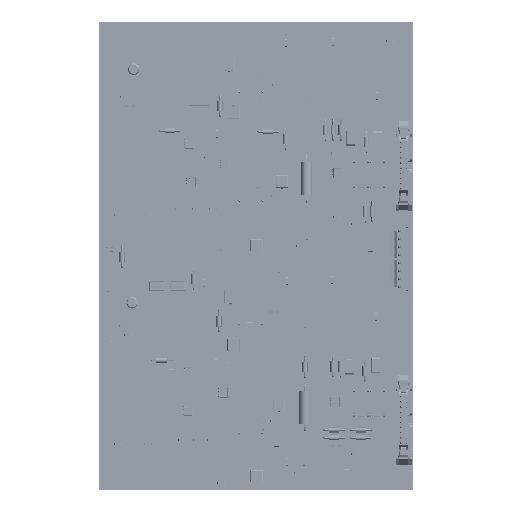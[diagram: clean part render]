
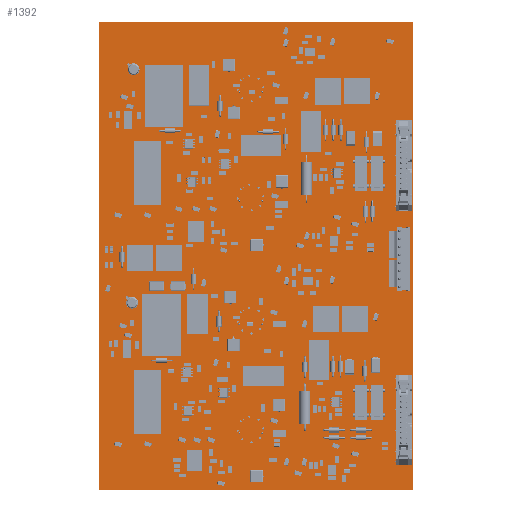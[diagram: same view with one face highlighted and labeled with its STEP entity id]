
A CAD part, top view. The second image highlights one B-rep face of the part: STEP entity #1392.
In plain terms, the highlighted planar face has unit normal (0, 0, 1).
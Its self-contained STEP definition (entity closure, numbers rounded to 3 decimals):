
#1199 = VERTEX_POINT('',#1200);
#1200 = CARTESIAN_POINT('',(0.,0.,0.));
#1206 = EDGE_CURVE('',#1199,#1207,#1209,.T.);
#1207 = VERTEX_POINT('',#1208);
#1208 = CARTESIAN_POINT('',(0.,231.14,0.));
#1209 = LINE('',#1210,#1211);
#1210 = CARTESIAN_POINT('',(0.,0.,0.));
#1211 = VECTOR('',#1212,1.);
#1212 = DIRECTION('',(0.,1.,0.));
#1237 = EDGE_CURVE('',#1207,#1238,#1240,.T.);
#1238 = VERTEX_POINT('',#1239);
#1239 = CARTESIAN_POINT('',(35.306,231.14,0.));
#1240 = LINE('',#1241,#1242);
#1241 = CARTESIAN_POINT('',(0.,231.14,0.));
#1242 = VECTOR('',#1243,1.);
#1243 = DIRECTION('',(1.,0.,0.));
#1268 = EDGE_CURVE('',#1238,#1269,#1271,.T.);
#1269 = VERTEX_POINT('',#1270);
#1270 = CARTESIAN_POINT('',(109.22,231.14,0.));
#1271 = LINE('',#1272,#1273);
#1272 = CARTESIAN_POINT('',(35.306,231.14,0.));
#1273 = VECTOR('',#1274,1.);
#1274 = DIRECTION('',(1.,0.,0.));
#1299 = EDGE_CURVE('',#1269,#1300,#1302,.T.);
#1300 = VERTEX_POINT('',#1301);
#1301 = CARTESIAN_POINT('',(155.194,231.14,0.));
#1302 = LINE('',#1303,#1304);
#1303 = CARTESIAN_POINT('',(109.22,231.14,0.));
#1304 = VECTOR('',#1305,1.);
#1305 = DIRECTION('',(1.,0.,0.));
#1330 = EDGE_CURVE('',#1300,#1331,#1333,.T.);
#1331 = VERTEX_POINT('',#1332);
#1332 = CARTESIAN_POINT('',(155.194,0.,0.));
#1333 = LINE('',#1334,#1335);
#1334 = CARTESIAN_POINT('',(155.194,231.14,0.));
#1335 = VECTOR('',#1336,1.);
#1336 = DIRECTION('',(0.,-1.,0.));
#1361 = EDGE_CURVE('',#1331,#1199,#1362,.T.);
#1362 = LINE('',#1363,#1364);
#1363 = CARTESIAN_POINT('',(155.194,0.,0.));
#1364 = VECTOR('',#1365,1.);
#1365 = DIRECTION('',(-1.,0.,0.));
#1392 = ADVANCED_FACE('',(#1393),#1401,.T.);
#1393 = FACE_BOUND('',#1394,.F.);
#1394 = EDGE_LOOP('',(#1395,#1396,#1397,#1398,#1399,#1400));
#1395 = ORIENTED_EDGE('',*,*,#1206,.T.);
#1396 = ORIENTED_EDGE('',*,*,#1237,.T.);
#1397 = ORIENTED_EDGE('',*,*,#1268,.T.);
#1398 = ORIENTED_EDGE('',*,*,#1299,.T.);
#1399 = ORIENTED_EDGE('',*,*,#1330,.T.);
#1400 = ORIENTED_EDGE('',*,*,#1361,.T.);
#1401 = PLANE('',#1402);
#1402 = AXIS2_PLACEMENT_3D('',#1403,#1404,#1405);
#1403 = CARTESIAN_POINT('',(0.,0.,0.));
#1404 = DIRECTION('',(0.,0.,1.));
#1405 = DIRECTION('',(1.,0.,0.));
